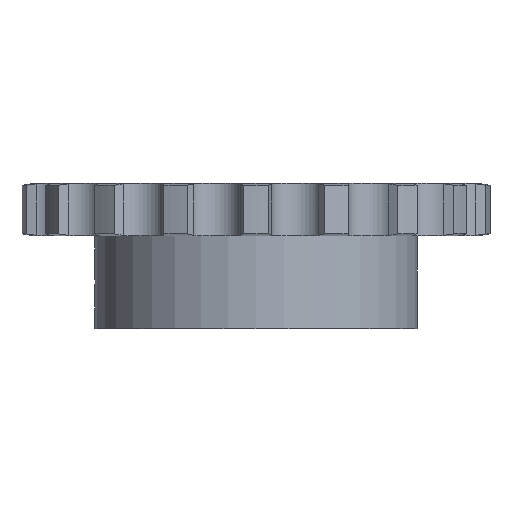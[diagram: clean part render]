
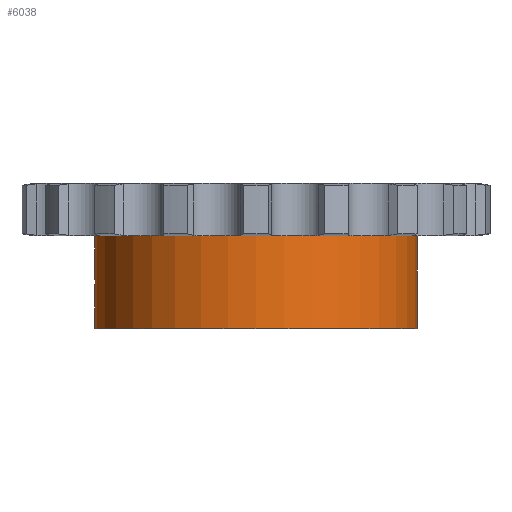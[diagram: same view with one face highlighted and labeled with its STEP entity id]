
A CAD part, front view. The second image highlights one B-rep face of the part: STEP entity #6038.
In plain terms, the highlighted cylindrical face has radius 50 mm (diameter 100 mm), a partial arc.
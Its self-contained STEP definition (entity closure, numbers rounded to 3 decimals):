
#1251=CARTESIAN_POINT('',(0.,0.,-8.1));
#1252=DIRECTION('',(0.,0.,1.));
#1253=DIRECTION('',(-1.,0.,0.));
#1254=AXIS2_PLACEMENT_3D('',#1251,#1252,#1253);
#2946=CARTESIAN_POINT('',(-50.,0.,
-20.5));
#2969=DIRECTION('',(0.,0.,1.));
#2970=VECTOR('',#2969,28.8);
#2971=CARTESIAN_POINT('',(50.,0.,-36.9));
#2972=LINE('',#2971,#2970);
#3088=CARTESIAN_POINT('',(-50.,0.,
-20.5));
#3089=CARTESIAN_POINT('',(-50.,-0.096,
-20.5));
#3090=CARTESIAN_POINT('',(-49.999,-0.287,
-20.514));
#3091=CARTESIAN_POINT('',(-49.997,-0.571,
-20.575));
#3092=CARTESIAN_POINT('',(-49.993,-0.843,
-20.676));
#3093=CARTESIAN_POINT('',(-49.988,-1.097,
-20.814));
#3094=CARTESIAN_POINT('',(-49.983,-1.328,
-20.987));
#3095=CARTESIAN_POINT('',(-49.977,-1.531,
-21.19));
#3096=CARTESIAN_POINT('',(-49.971,-1.703,
-21.42));
#3097=CARTESIAN_POINT('',(-49.966,-1.842,
-21.673));
#3098=CARTESIAN_POINT('',(-49.962,-1.942,
-21.943));
#3099=CARTESIAN_POINT('',(-49.96,-2.001,
-22.222));
#3100=CARTESIAN_POINT('',(-49.959,-2.014,
-22.407));
#3101=CARTESIAN_POINT('',(-49.959,-2.014,
-22.5));
#3106=DIRECTION('',(0.,0.,1.));
#3107=VECTOR('',#3106,12.4);
#3108=CARTESIAN_POINT('',(-50.,0.,
-20.5));
#3109=LINE('',#3108,#3107);
#3113=DIRECTION('',(0.,0.,1.));
#3114=VECTOR('',#3113,12.4);
#3115=CARTESIAN_POINT('',(-50.,0.,-36.9));
#3116=LINE('',#3115,#3114);
#3120=CARTESIAN_POINT('',(-49.959,-2.014,
-22.5));
#3121=CARTESIAN_POINT('',(-49.959,-2.014,
-22.593));
#3122=CARTESIAN_POINT('',(-49.96,-2.001,
-22.777));
#3123=CARTESIAN_POINT('',(-49.962,-1.942,
-23.056));
#3124=CARTESIAN_POINT('',(-49.966,-1.842,
-23.326));
#3125=CARTESIAN_POINT('',(-49.971,-1.704,
-23.58));
#3126=CARTESIAN_POINT('',(-49.977,-1.531,
-23.81));
#3127=CARTESIAN_POINT('',(-49.983,-1.328,
-24.013));
#3128=CARTESIAN_POINT('',(-49.988,-1.097,
-24.185));
#3129=CARTESIAN_POINT('',(-49.993,-0.843,
-24.324));
#3130=CARTESIAN_POINT('',(-49.997,-0.572,
-24.425));
#3131=CARTESIAN_POINT('',(-49.999,-0.287,
-24.486));
#3132=CARTESIAN_POINT('',(-50.,-0.096,
-24.5));
#3133=CARTESIAN_POINT('',(-50.,0.,
-24.5));
#3146=CARTESIAN_POINT('',(0.,0.,-36.9));
#3147=DIRECTION('',(0.,0.,-1.));
#3148=DIRECTION('',(1.,0.,0.));
#3149=AXIS2_PLACEMENT_3D('',#3146,#3147,#3148);
#3511=CARTESIAN_POINT('',(-50.,0.,-36.9));
#3512=CARTESIAN_POINT('',(50.,0.,-36.9));
#3513=VERTEX_POINT('',#3511);
#3514=VERTEX_POINT('',#3512);
#3515=CARTESIAN_POINT('',(50.,0.,-8.1));
#3516=VERTEX_POINT('',#3515);
#3517=CARTESIAN_POINT('',(-50.,0.,-8.1));
#3518=VERTEX_POINT('',#3517);
#3716=VERTEX_POINT('',#2946);
#3719=VERTEX_POINT('',#3101);
#3721=VERTEX_POINT('',#3133);
#6022=CARTESIAN_POINT('',(0.,0.,8.1));
#6023=DIRECTION('',(0.,0.,1.));
#6024=DIRECTION('',(1.,0.,0.));
#6025=AXIS2_PLACEMENT_3D('',#6022,#6023,#6024);
#6026=CYLINDRICAL_SURFACE('',#6025,50.);
#6027=ORIENTED_EDGE('',*,*,#6012,.F.);
#6028=ORIENTED_EDGE('',*,*,#5635,.T.);
#6029=ORIENTED_EDGE('',*,*,#4984,.T.);
#6030=ORIENTED_EDGE('',*,*,#5632,.F.);
#6032=ORIENTED_EDGE('',*,*,#6031,.T.);
#6033=ORIENTED_EDGE('',*,*,#5628,.T.);
#6035=ORIENTED_EDGE('',*,*,#6034,.F.);
#6036=EDGE_LOOP('',(#6027,#6028,#6029,#6030,#6032,#6033,#6035));
#6037=FACE_OUTER_BOUND('',#6036,.F.);
#6038=ADVANCED_FACE('',(#6037),#6026,.T.);
#1255=CIRCLE('',#1254,50.);
#3102=B_SPLINE_CURVE_WITH_KNOTS('',3,(#3088,#3089,#3090,#3091,#3092,#3093,#3094,
#3095,#3096,#3097,#3098,#3099,#3100,#3101),.UNSPECIFIED.,.F.,.F.,(4,1,1,1,1,1,1,
1,1,1,1,4),(0.,0.091,0.182,0.273,
0.364,0.455,0.545,0.636,
0.727,0.818,0.909,1.),.UNSPECIFIED.);
#3134=B_SPLINE_CURVE_WITH_KNOTS('',3,(#3120,#3121,#3122,#3123,#3124,#3125,#3126,
#3127,#3128,#3129,#3130,#3131,#3132,#3133),.UNSPECIFIED.,.F.,.F.,(4,1,1,1,1,1,1,
1,1,1,1,4),(0.,0.091,0.182,0.273,
0.364,0.455,0.545,0.636,
0.727,0.818,0.909,1.),.UNSPECIFIED.);
#3150=CIRCLE('',#3149,50.);
#4984=EDGE_CURVE('',#3518,#3516,#1255,.T.);
#5628=EDGE_CURVE('',#3513,#3721,#3116,.T.);
#5632=EDGE_CURVE('',#3514,#3516,#2972,.T.);
#5635=EDGE_CURVE('',#3716,#3518,#3109,.T.);
#6012=EDGE_CURVE('',#3716,#3719,#3102,.T.);
#6031=EDGE_CURVE('',#3514,#3513,#3150,.T.);
#6034=EDGE_CURVE('',#3719,#3721,#3134,.T.);
